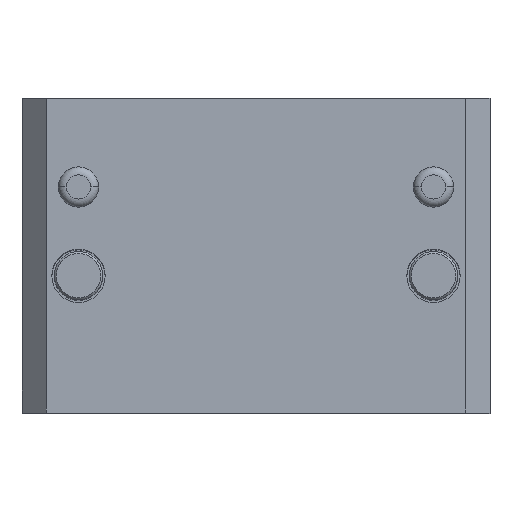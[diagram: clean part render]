
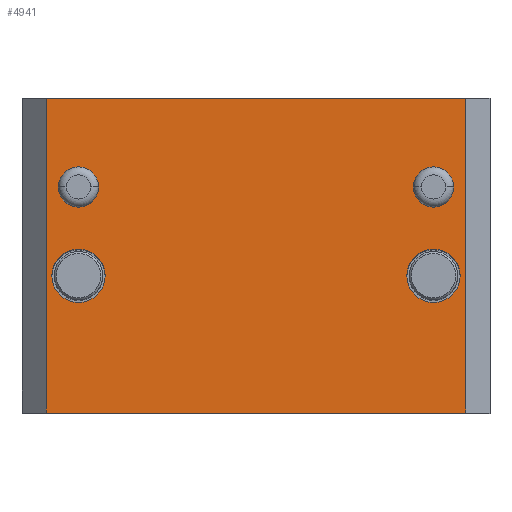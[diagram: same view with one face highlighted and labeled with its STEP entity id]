
A CAD part, top view. The second image highlights one B-rep face of the part: STEP entity #4941.
In plain terms, the highlighted planar face has unit normal (0, 0, 1).
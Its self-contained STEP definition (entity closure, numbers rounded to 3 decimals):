
#65 = VECTOR ( 'NONE', #4942, 1000. ) ;
#92 = ORIENTED_EDGE ( 'NONE', *, *, #4065, .T. ) ;
#172 = CARTESIAN_POINT ( 'NONE',  ( -12.245, 4.25, 12. ) ) ;
#388 = FACE_BOUND ( 'NONE', #4968, .T. ) ;
#436 = EDGE_LOOP ( 'NONE', ( #6504, #1932 ) ) ;
#470 = DIRECTION ( 'NONE',  ( -1., 0., 0. ) ) ;
#557 = CARTESIAN_POINT ( 'NONE',  ( -9.755, 4.25, 12. ) ) ;
#612 = CIRCLE ( 'NONE', #7338, 1.65 ) ;
#774 = VERTEX_POINT ( 'NONE', #7804 ) ;
#793 = EDGE_CURVE ( 'NONE', #7308, #3825, #612, .T. ) ;
#872 = AXIS2_PLACEMENT_3D ( 'NONE', #903, #5434, #1017 ) ;
#886 = AXIS2_PLACEMENT_3D ( 'NONE', #4799, #5908, #7801 ) ;
#900 = CARTESIAN_POINT ( 'NONE',  ( 13., -9.75, 12. ) ) ;
#903 = CARTESIAN_POINT ( 'NONE',  ( 11., -1.25, 12. ) ) ;
#959 = EDGE_LOOP ( 'NONE', ( #5557, #2988 ) ) ;
#967 = FACE_BOUND ( 'NONE', #3362, .T. ) ;
#1017 = DIRECTION ( 'NONE',  ( -1., 0., 0. ) ) ;
#1049 = PLANE ( 'NONE',  #2302 ) ;
#1158 = CARTESIAN_POINT ( 'NONE',  ( 13., 9.75, 12. ) ) ;
#1346 = EDGE_LOOP ( 'NONE', ( #2005, #92, #4576, #1737 ) ) ;
#1387 = VECTOR ( 'NONE', #2406, 1000. ) ;
#1437 = VERTEX_POINT ( 'NONE', #172 ) ;
#1438 = VERTEX_POINT ( 'NONE', #7083 ) ;
#1737 = ORIENTED_EDGE ( 'NONE', *, *, #6081, .T. ) ;
#1891 = DIRECTION ( 'NONE',  ( 0., 0., -1. ) ) ;
#1900 = DIRECTION ( 'NONE',  ( 0., 0., 1. ) ) ;
#1924 = CARTESIAN_POINT ( 'NONE',  ( -14.5, 9.75, 12. ) ) ;
#1932 = ORIENTED_EDGE ( 'NONE', *, *, #2651, .T. ) ;
#2003 = EDGE_CURVE ( 'NONE', #7560, #774, #6957, .T. ) ;
#2005 = ORIENTED_EDGE ( 'NONE', *, *, #2760, .T. ) ;
#2127 = ORIENTED_EDGE ( 'NONE', *, *, #5123, .F. ) ;
#2183 = DIRECTION ( 'NONE',  ( -1., 0., 0. ) ) ;
#2257 = LINE ( 'NONE', #4770, #65 ) ;
#2302 = AXIS2_PLACEMENT_3D ( 'NONE', #5515, #4844, #470 ) ;
#2331 = FACE_OUTER_BOUND ( 'NONE', #1346, .T. ) ;
#2385 = VERTEX_POINT ( 'NONE', #1158 ) ;
#2388 = DIRECTION ( 'NONE',  ( 1., 0., 0. ) ) ;
#2406 = DIRECTION ( 'NONE',  ( -1., 0., 0. ) ) ;
#2491 = CARTESIAN_POINT ( 'NONE',  ( 11., 4.25, 12. ) ) ;
#2612 = CARTESIAN_POINT ( 'NONE',  ( -11., 4.25, 12. ) ) ;
#2621 = DIRECTION ( 'NONE',  ( 0., 0., 1. ) ) ;
#2651 = EDGE_CURVE ( 'NONE', #774, #7560, #8085, .T. ) ;
#2676 = LINE ( 'NONE', #5205, #5094 ) ;
#2760 = EDGE_CURVE ( 'NONE', #1438, #5768, #2676, .T. ) ;
#2983 = FACE_BOUND ( 'NONE', #959, .T. ) ;
#2988 = ORIENTED_EDGE ( 'NONE', *, *, #793, .T. ) ;
#2996 = EDGE_CURVE ( 'NONE', #3825, #7308, #3490, .T. ) ;
#3070 = VERTEX_POINT ( 'NONE', #5522 ) ;
#3220 = CARTESIAN_POINT ( 'NONE',  ( 9.755, 4.25, 12. ) ) ;
#3344 = AXIS2_PLACEMENT_3D ( 'NONE', #7552, #1891, #5535 ) ;
#3362 = EDGE_LOOP ( 'NONE', ( #5408, #4481 ) ) ;
#3490 = CIRCLE ( 'NONE', #872, 1.65 ) ;
#3556 = VERTEX_POINT ( 'NONE', #3220 ) ;
#3610 = AXIS2_PLACEMENT_3D ( 'NONE', #4509, #1900, #6324 ) ;
#3612 = CARTESIAN_POINT ( 'NONE',  ( -12.65, -1.25, 12. ) ) ;
#3619 = CIRCLE ( 'NONE', #7069, 1.245 ) ;
#3825 = VERTEX_POINT ( 'NONE', #7402 ) ;
#3902 = DIRECTION ( 'NONE',  ( 1., 0., 0. ) ) ;
#3981 = CARTESIAN_POINT ( 'NONE',  ( -11., 4.25, 12. ) ) ;
#4011 = DIRECTION ( 'NONE',  ( 1., 0., 0. ) ) ;
#4065 = EDGE_CURVE ( 'NONE', #5768, #7106, #6766, .T. ) ;
#4481 = ORIENTED_EDGE ( 'NONE', *, *, #5354, .F. ) ;
#4509 = CARTESIAN_POINT ( 'NONE',  ( 11., 4.25, 12. ) ) ;
#4576 = ORIENTED_EDGE ( 'NONE', *, *, #7498, .T. ) ;
#4699 = VERTEX_POINT ( 'NONE', #557 ) ;
#4770 = CARTESIAN_POINT ( 'NONE',  ( 13., 0., 12. ) ) ;
#4799 = CARTESIAN_POINT ( 'NONE',  ( -11., -1.25, 12. ) ) ;
#4844 = DIRECTION ( 'NONE',  ( 0., 0., -1. ) ) ;
#4941 = ADVANCED_FACE ( 'NONE', ( #5475, #2983, #967, #388, #2331 ), #1049, .F. ) ;
#4942 = DIRECTION ( 'NONE',  ( 0., 1., 0. ) ) ;
#4968 = EDGE_LOOP ( 'NONE', ( #2127, #6117 ) ) ;
#5074 = CIRCLE ( 'NONE', #6531, 1.245 ) ;
#5080 = CIRCLE ( 'NONE', #3610, 1.245 ) ;
#5094 = VECTOR ( 'NONE', #5828, 1000. ) ;
#5123 = EDGE_CURVE ( 'NONE', #3070, #3556, #5074, .T. ) ;
#5205 = CARTESIAN_POINT ( 'NONE',  ( -13., 0., 12. ) ) ;
#5326 = CARTESIAN_POINT ( 'NONE',  ( 11., -1.25, 12. ) ) ;
#5354 = EDGE_CURVE ( 'NONE', #1437, #4699, #7309, .T. ) ;
#5408 = ORIENTED_EDGE ( 'NONE', *, *, #6725, .F. ) ;
#5434 = DIRECTION ( 'NONE',  ( 0., 0., -1. ) ) ;
#5475 = FACE_BOUND ( 'NONE', #436, .T. ) ;
#5515 = CARTESIAN_POINT ( 'NONE',  ( 0., 0., 12. ) ) ;
#5522 = CARTESIAN_POINT ( 'NONE',  ( 12.245, 4.25, 12. ) ) ;
#5535 = DIRECTION ( 'NONE',  ( -1., 0., 0. ) ) ;
#5557 = ORIENTED_EDGE ( 'NONE', *, *, #2996, .T. ) ;
#5592 = CARTESIAN_POINT ( 'NONE',  ( 12.65, -1.25, 12. ) ) ;
#5596 = AXIS2_PLACEMENT_3D ( 'NONE', #3981, #2621, #3902 ) ;
#5679 = LINE ( 'NONE', #1924, #1387 ) ;
#5768 = VERTEX_POINT ( 'NONE', #7825 ) ;
#5828 = DIRECTION ( 'NONE',  ( 0., -1., 0. ) ) ;
#5908 = DIRECTION ( 'NONE',  ( 0., 0., -1. ) ) ;
#6081 = EDGE_CURVE ( 'NONE', #2385, #1438, #5679, .T. ) ;
#6117 = ORIENTED_EDGE ( 'NONE', *, *, #8016, .F. ) ;
#6324 = DIRECTION ( 'NONE',  ( 1., 0., 0. ) ) ;
#6422 = DIRECTION ( 'NONE',  ( 0., 0., 1. ) ) ;
#6504 = ORIENTED_EDGE ( 'NONE', *, *, #2003, .T. ) ;
#6531 = AXIS2_PLACEMENT_3D ( 'NONE', #2491, #7623, #6795 ) ;
#6725 = EDGE_CURVE ( 'NONE', #4699, #1437, #3619, .T. ) ;
#6766 = LINE ( 'NONE', #6817, #7366 ) ;
#6795 = DIRECTION ( 'NONE',  ( 1., 0., 0. ) ) ;
#6817 = CARTESIAN_POINT ( 'NONE',  ( -14.5, -9.75, 12. ) ) ;
#6957 = CIRCLE ( 'NONE', #886, 1.65 ) ;
#7069 = AXIS2_PLACEMENT_3D ( 'NONE', #2612, #6422, #4011 ) ;
#7083 = CARTESIAN_POINT ( 'NONE',  ( -13., 9.75, 12. ) ) ;
#7106 = VERTEX_POINT ( 'NONE', #900 ) ;
#7308 = VERTEX_POINT ( 'NONE', #5592 ) ;
#7309 = CIRCLE ( 'NONE', #5596, 1.245 ) ;
#7338 = AXIS2_PLACEMENT_3D ( 'NONE', #5326, #7842, #2183 ) ;
#7366 = VECTOR ( 'NONE', #2388, 1000. ) ;
#7402 = CARTESIAN_POINT ( 'NONE',  ( 9.35, -1.25, 12. ) ) ;
#7498 = EDGE_CURVE ( 'NONE', #7106, #2385, #2257, .T. ) ;
#7552 = CARTESIAN_POINT ( 'NONE',  ( -11., -1.25, 12. ) ) ;
#7560 = VERTEX_POINT ( 'NONE', #3612 ) ;
#7623 = DIRECTION ( 'NONE',  ( 0., 0., 1. ) ) ;
#7801 = DIRECTION ( 'NONE',  ( -1., 0., 0. ) ) ;
#7804 = CARTESIAN_POINT ( 'NONE',  ( -9.35, -1.25, 12. ) ) ;
#7825 = CARTESIAN_POINT ( 'NONE',  ( -13., -9.75, 12. ) ) ;
#7842 = DIRECTION ( 'NONE',  ( 0., 0., -1. ) ) ;
#8016 = EDGE_CURVE ( 'NONE', #3556, #3070, #5080, .T. ) ;
#8085 = CIRCLE ( 'NONE', #3344, 1.65 ) ;
